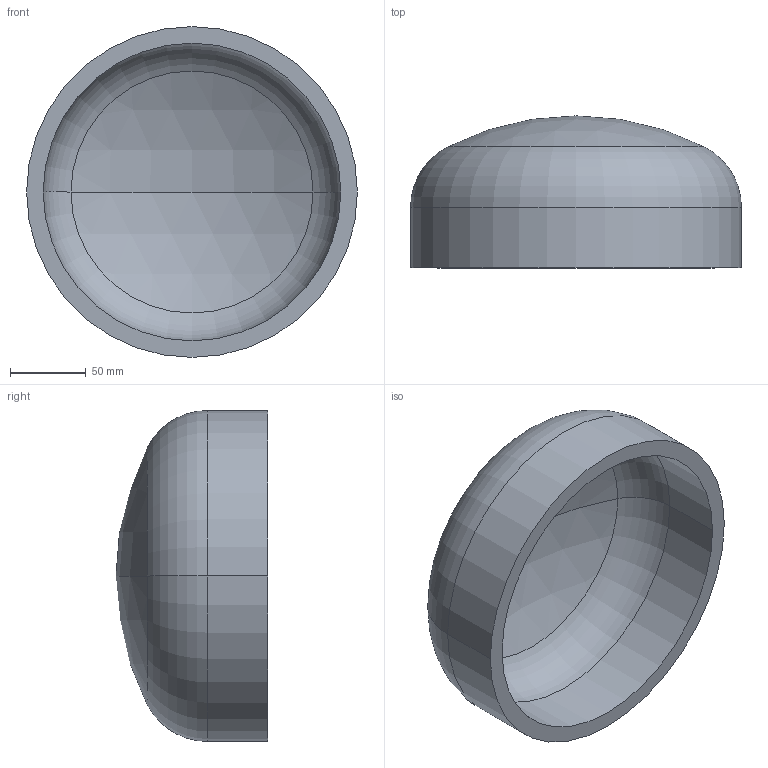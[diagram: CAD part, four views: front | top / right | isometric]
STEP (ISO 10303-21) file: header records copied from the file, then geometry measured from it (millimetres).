
FILE_DESCRIPTION (( 'STEP AP203' ), '1' );
FILE_NAME ('DIN 28013 Korbbogenform_-_Boden DIN 28013 - 219,1 x 40 - I - s=11.step', '2016-07-01T07:42:27', ( '' ), ( '' ), 'SwSTEP 2.0', 'SolidWorks 2013', '' );
FILE_SCHEMA (( 'CONFIG_CONTROL_DESIGN' ));
Length unit declared in the file: millimetre
Products named in the file (1): DIN 28013 Korbbogenform_-_Boden DIN 28013 - 219,1 x 40 - I - s=11
Bounding box: 219.1 x 100.64 x 219.1 mm (x, y, z)
Volume: 827066 mm3; surface area: 157820.4 mm2
Topology: 1 solids, 1 shells, 13 faces, 24 edges, 14 vertices
Faces by surface type: torus 4, cylinder 4, sphere 4, plane 1
Entity records: 407 total; most frequent: DIRECTION 72, CARTESIAN_POINT 52, ORIENTED_EDGE 48, AXIS2_PLACEMENT_3D 34, EDGE_CURVE 24, CIRCLE 20, VERTEX_POINT 14, EDGE_LOOP 14
